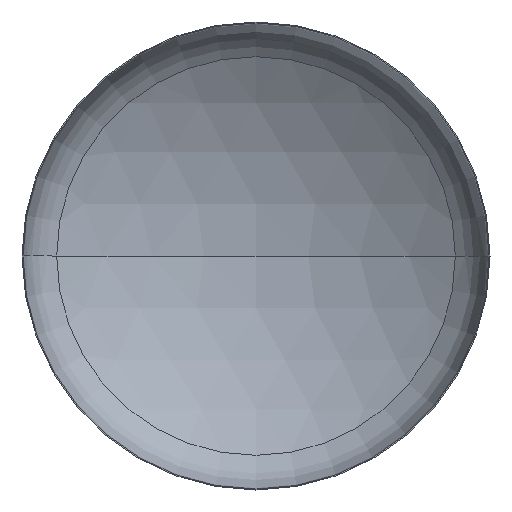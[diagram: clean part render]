
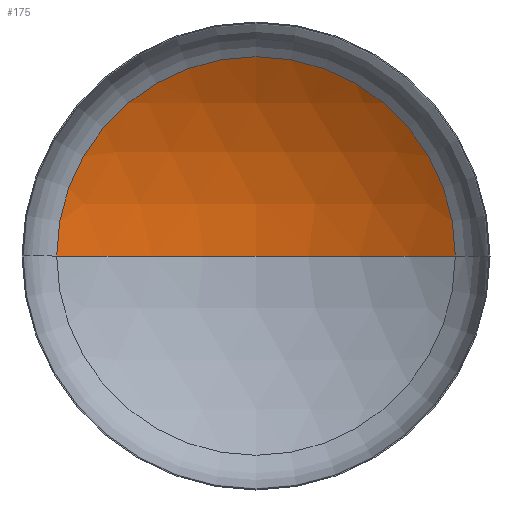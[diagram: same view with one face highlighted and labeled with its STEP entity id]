
A CAD part, front view. The second image highlights one B-rep face of the part: STEP entity #175.
In plain terms, the highlighted spherical face has radius 3040 mm.
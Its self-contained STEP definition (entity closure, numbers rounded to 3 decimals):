
#5 = CARTESIAN_POINT ( 'NONE',  ( 0., -2053.166, 0. ) ) ;
#23 = AXIS2_PLACEMENT_3D ( 'NONE', #282, #215, #117 ) ;
#28 = AXIS2_PLACEMENT_3D ( 'NONE', #290, #239, #399 ) ;
#31 = ORIENTED_EDGE ( 'NONE', *, *, #354, .T. ) ;
#36 = EDGE_LOOP ( 'NONE', ( #95, #31, #43 ) ) ;
#43 = ORIENTED_EDGE ( 'NONE', *, *, #348, .T. ) ;
#50 = AXIS2_PLACEMENT_3D ( 'NONE', #5, #183, #132 ) ;
#55 = VERTEX_POINT ( 'NONE', #345 ) ;
#86 = VERTEX_POINT ( 'NONE', #231 ) ;
#95 = ORIENTED_EDGE ( 'NONE', *, *, #394, .F. ) ;
#101 = AXIS2_PLACEMENT_3D ( 'NONE', #127, #312, #170 ) ;
#117 = DIRECTION ( 'NONE',  ( -1., 0., 0. ) ) ;
#127 = CARTESIAN_POINT ( 'NONE',  ( 0., -2053.166, 0. ) ) ;
#132 = DIRECTION ( 'NONE',  ( -1., 0., 0. ) ) ;
#170 = DIRECTION ( 'NONE',  ( 1., 0., 0. ) ) ;
#175 = ADVANCED_FACE ( 'NONE', ( #249 ), #376, .F. ) ;
#183 = DIRECTION ( 'NONE',  ( 0., 0., -1. ) ) ;
#215 = DIRECTION ( 'NONE',  ( 0., 0., -1. ) ) ;
#217 = VERTEX_POINT ( 'NONE', #378 ) ;
#231 = CARTESIAN_POINT ( 'NONE',  ( 1618.444, 520.205, 0. ) ) ;
#233 = CIRCLE ( 'NONE', #23, 3040. ) ;
#239 = DIRECTION ( 'NONE',  ( 0., -1., 0. ) ) ;
#249 = FACE_OUTER_BOUND ( 'NONE', #36, .T. ) ;
#282 = CARTESIAN_POINT ( 'NONE',  ( 0., -2053.166, 0. ) ) ;
#290 = CARTESIAN_POINT ( 'NONE',  ( 0., 520.205, 0. ) ) ;
#312 = DIRECTION ( 'NONE',  ( 0., 0., 1. ) ) ;
#345 = CARTESIAN_POINT ( 'NONE',  ( 0., 986.834, 0. ) ) ;
#348 = EDGE_CURVE ( 'NONE', #86, #217, #351, .T. ) ;
#351 = CIRCLE ( 'NONE', #28, 1618.444 ) ;
#354 = EDGE_CURVE ( 'NONE', #55, #86, #233, .T. ) ;
#376 = SPHERICAL_SURFACE ( 'NONE', #50, 3040. ) ;
#378 = CARTESIAN_POINT ( 'NONE',  ( -1618.444, 520.205, 0. ) ) ;
#390 = CIRCLE ( 'NONE', #101, 3040. ) ;
#394 = EDGE_CURVE ( 'NONE', #55, #217, #390, .T. ) ;
#399 = DIRECTION ( 'NONE',  ( 1., 0., 0. ) ) ;
